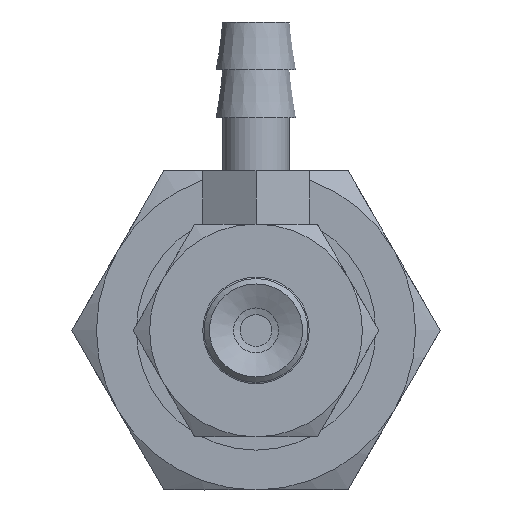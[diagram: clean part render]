
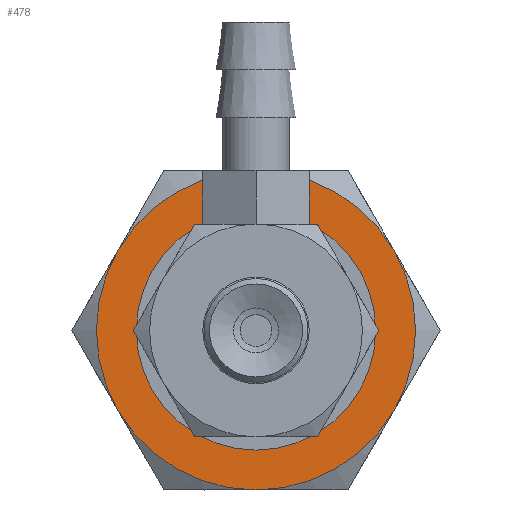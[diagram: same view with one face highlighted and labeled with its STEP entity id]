
A CAD part, front view. The second image highlights one B-rep face of the part: STEP entity #478.
In plain terms, the highlighted planar face has unit normal (0, -1, 0) as drawn and (-1, 0, 0) by its records, which use the part's own axes.
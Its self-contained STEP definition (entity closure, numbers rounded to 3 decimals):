
#478=ADVANCED_FACE('',(#640,#641),#642,.F.);
#640=FACE_BOUND('',#967,.T.);
#641=FACE_OUTER_BOUND('',#968,.T.);
#642=PLANE('',#969);
#967=EDGE_LOOP('',(#1427));
#968=EDGE_LOOP('',(#1428,#1429,#1430,#1431,#1432,#1433));
#969=AXIS2_PLACEMENT_3D('',#1434,#1435,#1436);
#1427=ORIENTED_EDGE('',*,*,#2202,.T.);
#1428=ORIENTED_EDGE('',*,*,#2180,.F.);
#1429=ORIENTED_EDGE('',*,*,#2192,.F.);
#1430=ORIENTED_EDGE('',*,*,#2189,.F.);
#1431=ORIENTED_EDGE('',*,*,#2203,.F.);
#1432=ORIENTED_EDGE('',*,*,#2204,.F.);
#1433=ORIENTED_EDGE('',*,*,#2171,.F.);
#1434=CARTESIAN_POINT('',(0.,0.0,0.0));
#1435=DIRECTION('',(1.0,0.0,0.0));
#1436=DIRECTION('',(0.0,1.0,0.0));
#2171=EDGE_CURVE('',#2427,#2428,#2429,.T.);
#2180=EDGE_CURVE('',#2442,#2427,#2445,.T.);
#2189=EDGE_CURVE('',#2459,#2460,#2461,.T.);
#2192=EDGE_CURVE('',#2460,#2442,#2465,.T.);
#2202=EDGE_CURVE('',#2481,#2481,#2482,.T.);
#2203=EDGE_CURVE('',#2483,#2459,#2484,.T.);
#2204=EDGE_CURVE('',#2428,#2483,#2485,.T.);
#2427=VERTEX_POINT('',#2855);
#2428=VERTEX_POINT('',#2856);
#2429=CIRCLE('',#2857,6.0);
#2442=VERTEX_POINT('',#2912);
#2445=CIRCLE('',#2935,6.0);
#2459=VERTEX_POINT('',#3000);
#2460=VERTEX_POINT('',#3001);
#2461=CIRCLE('',#3002,6.0);
#2465=CIRCLE('',#3026,6.0);
#2481=VERTEX_POINT('',#3092);
#2482=CIRCLE('',#3093,4.0);
#2483=VERTEX_POINT('',#3094);
#2484=CIRCLE('',#3095,6.0);
#2485=CIRCLE('',#3096,6.0);
#2855=CARTESIAN_POINT('',(0.,5.196,3.0));
#2856=CARTESIAN_POINT('',(0.,0.0,6.0));
#2857=AXIS2_PLACEMENT_3D('',#3685,#3686,#3687);
#2912=CARTESIAN_POINT('',(0.,5.196,-3.0));
#2935=AXIS2_PLACEMENT_3D('',#3690,#3691,#3692);
#3000=CARTESIAN_POINT('',(0.,-5.196,-3.0));
#3001=CARTESIAN_POINT('',(0.,0.0,-6.0));
#3002=AXIS2_PLACEMENT_3D('',#3700,#3701,#3702);
#3026=AXIS2_PLACEMENT_3D('',#3703,#3704,#3705);
#3092=CARTESIAN_POINT('',(0.,0.0,-4.0));
#3093=AXIS2_PLACEMENT_3D('',#3718,#3719,#3720);
#3094=CARTESIAN_POINT('',(0.,-5.196,3.0));
#3095=AXIS2_PLACEMENT_3D('',#3721,#3722,#3723);
#3096=AXIS2_PLACEMENT_3D('',#3724,#3725,#3726);
#3685=CARTESIAN_POINT('',(0.,0.0,0.0));
#3686=DIRECTION('',(1.0,0.0,0.0));
#3687=DIRECTION('',(0.0,0.0,-1.0));
#3690=CARTESIAN_POINT('',(0.,0.0,0.0));
#3691=DIRECTION('',(1.0,0.0,0.0));
#3692=DIRECTION('',(0.0,0.0,-1.0));
#3700=CARTESIAN_POINT('',(0.,0.0,0.0));
#3701=DIRECTION('',(1.0,0.0,0.0));
#3702=DIRECTION('',(0.0,0.0,-1.0));
#3703=CARTESIAN_POINT('',(0.,0.0,0.0));
#3704=DIRECTION('',(1.0,0.0,0.0));
#3705=DIRECTION('',(0.0,0.0,-1.0));
#3718=CARTESIAN_POINT('',(0.,0.0,0.0));
#3719=DIRECTION('',(1.0,0.0,0.0));
#3720=DIRECTION('',(0.0,0.0,-1.0));
#3721=CARTESIAN_POINT('',(0.,0.0,0.0));
#3722=DIRECTION('',(1.0,0.0,0.0));
#3723=DIRECTION('',(0.0,0.0,-1.0));
#3724=CARTESIAN_POINT('',(0.,0.0,0.0));
#3725=DIRECTION('',(1.0,0.0,0.0));
#3726=DIRECTION('',(0.0,0.0,-1.0));
